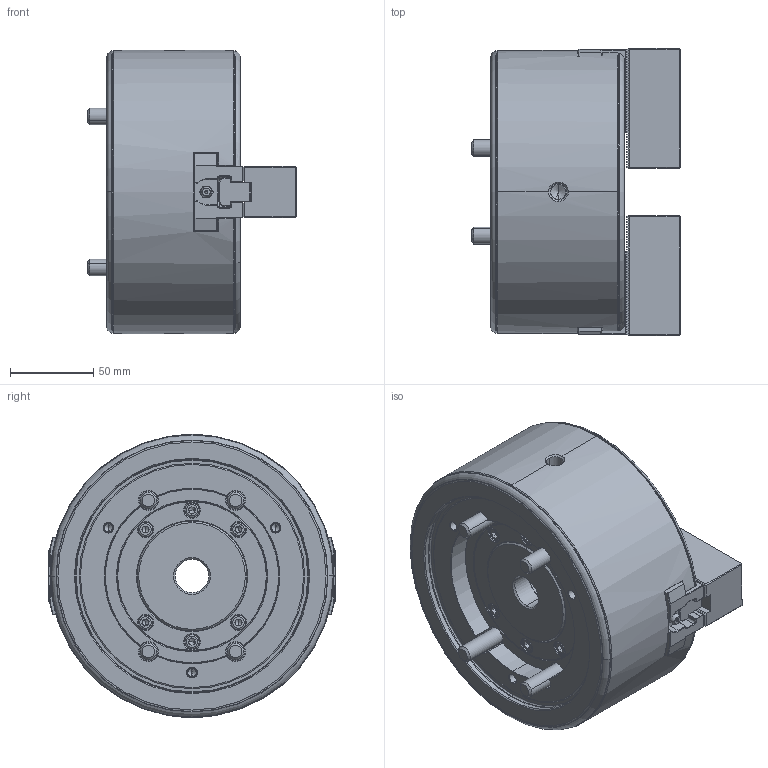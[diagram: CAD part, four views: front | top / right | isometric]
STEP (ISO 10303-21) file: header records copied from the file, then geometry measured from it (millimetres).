
FILE_DESCRIPTION (( 'STEP AP214' ), '1' );
FILE_NAME ('BRT06_UC.STEP', '2022-06-20T04:18:06', ( '' ), ( '' ), 'SwSTEP 2.0', 'SolidWorks 2020', '' );
FILE_SCHEMA (( 'AUTOMOTIVE_DESIGN' ));
Length unit declared in the file: millimetre
Products named in the file (5): BRT06-61P314547-4(SJ06A1T) ソフトジョー_SJ06A1T-ﾃﾞﾌｫﾙﾄ-Design; BR06-Nishi08 Tナット-Plus_61P447483-改正2 BB206 Tﾅｯﾄ-分割; BRT06_UC; Part9^BRT06-Nishi08 クミタテ; Bアナツキ M10×25
Assembly tree (9 placements, depth 2):
  BRT06_UC
    BRT06-61P314547-4(SJ06A1T) ソフトジョー_SJ06A1T-ﾃﾞﾌｫﾙﾄ-Design  x2
    BR06-Nishi08 Tナット-Plus_61P447483-改正2 BB206 Tﾅｯﾄ-分割  x2
    Bアナツキ M10×25  x4
    Part9^BRT06-Nishi08 クミタテ
Bounding box: 125.2 x 172.61 x 170 mm (x, y, z)
Volume: 1638795.6 mm3; surface area: 192989 mm2
Topology: 9 solids, 23 shells, 2817 faces, 7537 edges, 4820 vertices
Faces by surface type: plane 1938, cylinder 389, cone 279, bspline 126, torus 77, sphere 8
Entity records: 77381 total; most frequent: CARTESIAN_POINT 19010, ORIENTED_EDGE 12446, DIRECTION 11495, EDGE_CURVE 6223, LINE 4503, VECTOR 4503, VERTEX_POINT 4003, AXIS2_PLACEMENT_3D 3496
